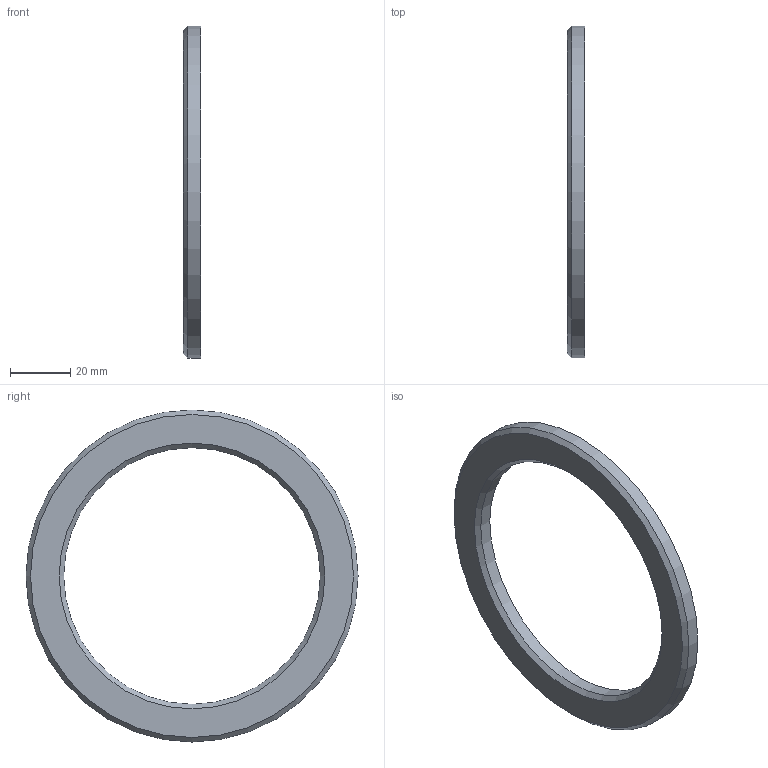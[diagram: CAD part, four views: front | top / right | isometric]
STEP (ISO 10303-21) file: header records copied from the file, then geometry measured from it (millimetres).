
FILE_DESCRIPTION(/* description */ (''),/* implementation_level */ '2;1');
FILE_NAME(/* name */ 'I:\Katalóg ihlovích ložísk\AXK---\LS--\LS85110.stp',/* time_stamp */ '2016-12-13T08:35:46+01:00',/* author */ ('OUBALASKO'),/* organization */ (''),/* preprocessor_version */ 'ST-DEVELOPER v15.6',/* originating_system */ 'Autodesk Inventor 2015',/* authorisation */ '');
FILE_SCHEMA (('AUTOMOTIVE_DESIGN { 1 0 10303 214 3 1 1 }'));
Length unit declared in the file: millimetre
Products named in the file (1): LS85110
Bounding box: 5.75 x 110 x 110 mm (x, y, z)
Volume: 21326.5 mm3; surface area: 10641.9 mm2
Topology: 1 solids, 1 shells, 6 faces, 10 edges, 6 vertices
Faces by surface type: cone 2, plane 2, cylinder 2
Full cylindrical faces by diameter (mm): 85 x1, 110 x1
Entity records: 152 total; most frequent: DIRECTION 26, CARTESIAN_POINT 19, AXIS2_PLACEMENT_3D 13, EDGE_LOOP 12, ORIENTED_EDGE 12, FACE_BOUND 6, FACE_OUTER_BOUND 6, CIRCLE 6
